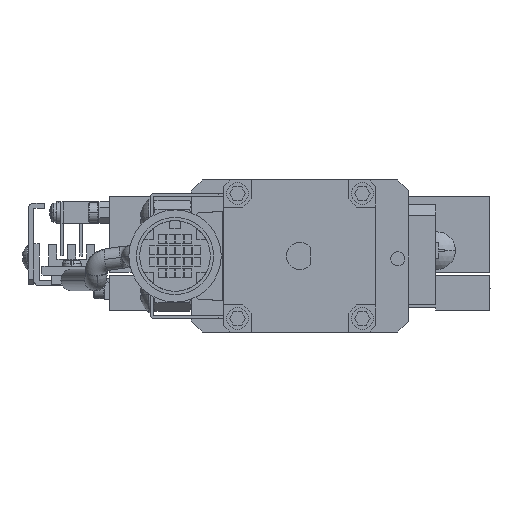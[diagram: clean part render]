
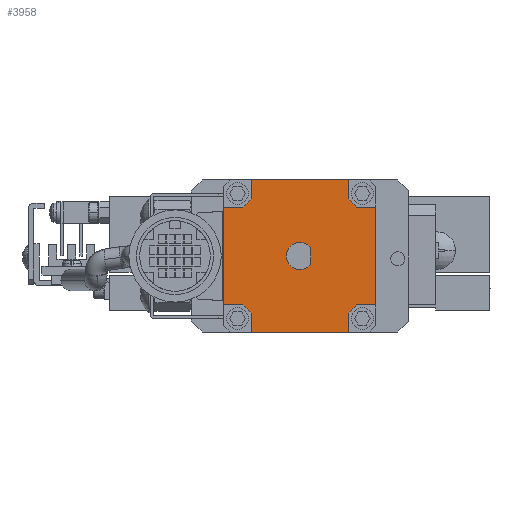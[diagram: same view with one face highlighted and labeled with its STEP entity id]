
A CAD part, left-side view. The second image highlights one B-rep face of the part: STEP entity #3958.
In plain terms, the highlighted planar face has unit normal (-1, 0, 0).
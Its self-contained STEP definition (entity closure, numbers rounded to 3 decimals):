
#362 = VECTOR ( 'NONE', #15434, 1000. ) ;
#437 = AXIS2_PLACEMENT_3D ( 'NONE', #63019, #15230, #41120 ) ;
#969 = LINE ( 'NONE', #35699, #31578 ) ;
#1140 = DIRECTION ( 'NONE',  ( 0., 0., -1. ) ) ;
#1456 = ORIENTED_EDGE ( 'NONE', *, *, #5031, .T. ) ;
#1590 = ORIENTED_EDGE ( 'NONE', *, *, #18285, .F. ) ;
#1621 = CARTESIAN_POINT ( 'NONE',  ( -124.5, 23.164, 33.164 ) ) ;
#1667 = VERTEX_POINT ( 'NONE', #55073 ) ;
#1976 = VERTEX_POINT ( 'NONE', #6130 ) ;
#2765 = CARTESIAN_POINT ( 'NONE',  ( -124.5, 14., 1. ) ) ;
#2819 = VERTEX_POINT ( 'NONE', #4195 ) ;
#3576 = VERTEX_POINT ( 'NONE', #52211 ) ;
#3958 = ADVANCED_FACE ( 'NONE', ( #6708, #18769 ), #30735, .F. ) ;
#4035 = ORIENTED_EDGE ( 'NONE', *, *, #8249, .F. ) ;
#4195 = CARTESIAN_POINT ( 'NONE',  ( -124.5, -14., 1. ) ) ;
#4284 = ORIENTED_EDGE ( 'NONE', *, *, #11650, .F. ) ;
#4507 = EDGE_LOOP ( 'NONE', ( #16329, #17000, #64114, #4284, #48789, #7165, #11136, #60431, #38598, #52429, #29481, #1590, #65864, #30746, #1456, #4035 ) ) ;
#5031 = EDGE_CURVE ( 'NONE', #25926, #2819, #24253, .T. ) ;
#5133 = VECTOR ( 'NONE', #7594, 1000. ) ;
#6130 = CARTESIAN_POINT ( 'NONE',  ( -124.5, -9., -4. ) ) ;
#6556 = DIRECTION ( 'NONE',  ( 0., 0., -1. ) ) ;
#6667 = VERTEX_POINT ( 'NONE', #58008 ) ;
#6708 = FACE_OUTER_BOUND ( 'NONE', #4507, .T. ) ;
#7079 = DIRECTION ( 'NONE',  ( 0., 0., 1. ) ) ;
#7165 = ORIENTED_EDGE ( 'NONE', *, *, #64542, .T. ) ;
#7594 = DIRECTION ( 'NONE',  ( 0., 1., 0. ) ) ;
#8249 = EDGE_CURVE ( 'NONE', #6667, #2819, #8571, .T. ) ;
#8571 = LINE ( 'NONE', #42143, #10190 ) ;
#8937 = VECTOR ( 'NONE', #63524, 1000. ) ;
#9013 = AXIS2_PLACEMENT_3D ( 'NONE', #11724, #51817, #21592 ) ;
#9474 = CARTESIAN_POINT ( 'NONE',  ( -124.5, 9., -0.5 ) ) ;
#9709 = AXIS2_PLACEMENT_3D ( 'NONE', #37267, #20843, #62377 ) ;
#9897 = VERTEX_POINT ( 'NONE', #44981 ) ;
#10190 = VECTOR ( 'NONE', #6556, 1000. ) ;
#10217 = CARTESIAN_POINT ( 'NONE',  ( -124.5, 9., -0.5 ) ) ;
#10638 = VERTEX_POINT ( 'NONE', #52435 ) ;
#10997 = LINE ( 'NONE', #2765, #52111 ) ;
#11136 = ORIENTED_EDGE ( 'NONE', *, *, #52993, .T. ) ;
#11232 = EDGE_CURVE ( 'NONE', #42732, #28280, #32022, .T. ) ;
#11306 = LINE ( 'NONE', #33472, #8937 ) ;
#11650 = EDGE_CURVE ( 'NONE', #49809, #28280, #65931, .T. ) ;
#11724 = CARTESIAN_POINT ( 'NONE',  ( -124.5, 23.164, -13.164 ) ) ;
#11778 = VERTEX_POINT ( 'NONE', #57046 ) ;
#11986 = EDGE_CURVE ( 'NONE', #6667, #38074, #27857, .T. ) ;
#13288 = DIRECTION ( 'NONE',  ( 0., 1., 0. ) ) ;
#13539 = EDGE_CURVE ( 'NONE', #49235, #9897, #39761, .T. ) ;
#15230 = DIRECTION ( 'NONE',  ( 1., 0., 0. ) ) ;
#15434 = DIRECTION ( 'NONE',  ( 0., 1., 0. ) ) ;
#15554 = CARTESIAN_POINT ( 'NONE',  ( -124.5, -9., 20.5 ) ) ;
#16092 = EDGE_CURVE ( 'NONE', #1667, #25926, #25764, .T. ) ;
#16147 = EDGE_CURVE ( 'NONE', #49235, #9897, #20166, .T. ) ;
#16329 = ORIENTED_EDGE ( 'NONE', *, *, #11986, .T. ) ;
#16669 = VECTOR ( 'NONE', #25451, 1000. ) ;
#16829 = VERTEX_POINT ( 'NONE', #47180 ) ;
#17000 = ORIENTED_EDGE ( 'NONE', *, *, #19159, .T. ) ;
#17161 = CIRCLE ( 'NONE', #48697, 19. ) ;
#18285 = EDGE_CURVE ( 'NONE', #1976, #16829, #58455, .T. ) ;
#18769 = FACE_BOUND ( 'NONE', #28505, .T. ) ;
#19159 = EDGE_CURVE ( 'NONE', #38074, #42732, #17161, .T. ) ;
#19306 = ORIENTED_EDGE ( 'NONE', *, *, #16147, .T. ) ;
#19927 = VECTOR ( 'NONE', #7079, 1000. ) ;
#20166 = CIRCLE ( 'NONE', #66317, 2.5 ) ;
#20197 = VERTEX_POINT ( 'NONE', #26090 ) ;
#20279 = CARTESIAN_POINT ( 'NONE',  ( -124.5, 9., 24. ) ) ;
#20843 = DIRECTION ( 'NONE',  ( 1., 0., 0. ) ) ;
#21012 = VECTOR ( 'NONE', #27806, 1000. ) ;
#21464 = CARTESIAN_POINT ( 'NONE',  ( -124.5, -9., 20.5 ) ) ;
#21592 = DIRECTION ( 'NONE',  ( 0., -0.667, 0.745 ) ) ;
#24253 = LINE ( 'NONE', #43175, #21012 ) ;
#24483 = EDGE_CURVE ( 'NONE', #39528, #42019, #53768, .T. ) ;
#24883 = CARTESIAN_POINT ( 'NONE',  ( -124.5, -2., 8.5 ) ) ;
#25110 = DIRECTION ( 'NONE',  ( 0., 0., 1. ) ) ;
#25451 = DIRECTION ( 'NONE',  ( 0., -1., 0. ) ) ;
#25764 = CIRCLE ( 'NONE', #9709, 19. ) ;
#25926 = VERTEX_POINT ( 'NONE', #59849 ) ;
#26090 = CARTESIAN_POINT ( 'NONE',  ( -124.5, 14., 19. ) ) ;
#27394 = CARTESIAN_POINT ( 'NONE',  ( -124.5, 9., 24. ) ) ;
#27806 = DIRECTION ( 'NONE',  ( 0., -1., 0. ) ) ;
#27857 = LINE ( 'NONE', #33309, #60992 ) ;
#28280 = VERTEX_POINT ( 'NONE', #63154 ) ;
#28505 = EDGE_LOOP ( 'NONE', ( #63749, #19306 ) ) ;
#28848 = VECTOR ( 'NONE', #45050, 1000. ) ;
#29481 = ORIENTED_EDGE ( 'NONE', *, *, #58904, .T. ) ;
#30735 = PLANE ( 'NONE',  #437 ) ;
#30746 = ORIENTED_EDGE ( 'NONE', *, *, #16092, .T. ) ;
#31005 = EDGE_CURVE ( 'NONE', #11778, #39528, #10997, .T. ) ;
#31578 = VECTOR ( 'NONE', #25110, 1000. ) ;
#32022 = LINE ( 'NONE', #21464, #19927 ) ;
#32938 = LINE ( 'NONE', #38014, #64455 ) ;
#33309 = CARTESIAN_POINT ( 'NONE',  ( -124.5, -14., 19. ) ) ;
#33472 = CARTESIAN_POINT ( 'NONE',  ( -124.5, -9., -4. ) ) ;
#33498 = CARTESIAN_POINT ( 'NONE',  ( -124.5, -10.5, 19. ) ) ;
#33777 = DIRECTION ( 'NONE',  ( 0., -0.745, -0.667 ) ) ;
#34808 = EDGE_CURVE ( 'NONE', #1976, #1667, #11306, .T. ) ;
#35699 = CARTESIAN_POINT ( 'NONE',  ( -124.5, 14., 1. ) ) ;
#35902 = EDGE_CURVE ( 'NONE', #49809, #3576, #32938, .T. ) ;
#36686 = AXIS2_PLACEMENT_3D ( 'NONE', #1621, #58434, #33777 ) ;
#37267 = CARTESIAN_POINT ( 'NONE',  ( -124.5, -23.164, -13.164 ) ) ;
#38014 = CARTESIAN_POINT ( 'NONE',  ( -124.5, 9., 24. ) ) ;
#38074 = VERTEX_POINT ( 'NONE', #33498 ) ;
#38448 = CARTESIAN_POINT ( 'NONE',  ( -124.5, -23.164, 33.164 ) ) ;
#38598 = ORIENTED_EDGE ( 'NONE', *, *, #31005, .T. ) ;
#39528 = VERTEX_POINT ( 'NONE', #62018 ) ;
#39761 = LINE ( 'NONE', #53956, #40560 ) ;
#40560 = VECTOR ( 'NONE', #43376, 1000. ) ;
#41120 = DIRECTION ( 'NONE',  ( 0., 0., 1. ) ) ;
#41446 = EDGE_CURVE ( 'NONE', #11778, #20197, #969, .T. ) ;
#42019 = VERTEX_POINT ( 'NONE', #10217 ) ;
#42143 = CARTESIAN_POINT ( 'NONE',  ( -124.5, -14., 19. ) ) ;
#42732 = VERTEX_POINT ( 'NONE', #15554 ) ;
#43175 = CARTESIAN_POINT ( 'NONE',  ( -124.5, -10.5, 1. ) ) ;
#43376 = DIRECTION ( 'NONE',  ( 0., 0., 1. ) ) ;
#43660 = DIRECTION ( 'NONE',  ( 0., 0.667, -0.745 ) ) ;
#44981 = CARTESIAN_POINT ( 'NONE',  ( -124.5, -2., 11.5 ) ) ;
#45050 = DIRECTION ( 'NONE',  ( 0., 0., -1. ) ) ;
#47180 = CARTESIAN_POINT ( 'NONE',  ( -124.5, 9., -4. ) ) ;
#47255 = CARTESIAN_POINT ( 'NONE',  ( -124.5, 0., 10. ) ) ;
#48293 = LINE ( 'NONE', #9474, #28848 ) ;
#48697 = AXIS2_PLACEMENT_3D ( 'NONE', #38448, #64242, #43660 ) ;
#48789 = ORIENTED_EDGE ( 'NONE', *, *, #35902, .T. ) ;
#49235 = VERTEX_POINT ( 'NONE', #24883 ) ;
#49809 = VERTEX_POINT ( 'NONE', #27394 ) ;
#51817 = DIRECTION ( 'NONE',  ( 1., 0., 0. ) ) ;
#52111 = VECTOR ( 'NONE', #64345, 1000. ) ;
#52211 = CARTESIAN_POINT ( 'NONE',  ( -124.5, 9., 20.5 ) ) ;
#52429 = ORIENTED_EDGE ( 'NONE', *, *, #24483, .T. ) ;
#52435 = CARTESIAN_POINT ( 'NONE',  ( -124.5, 10.5, 19. ) ) ;
#52993 = EDGE_CURVE ( 'NONE', #10638, #20197, #60013, .T. ) ;
#53768 = CIRCLE ( 'NONE', #9013, 19. ) ;
#53956 = CARTESIAN_POINT ( 'NONE',  ( -124.5, -2., 8.5 ) ) ;
#55073 = CARTESIAN_POINT ( 'NONE',  ( -124.5, -9., -0.5 ) ) ;
#56953 = DIRECTION ( 'NONE',  ( 0., 1., 0. ) ) ;
#57046 = CARTESIAN_POINT ( 'NONE',  ( -124.5, 14., 1. ) ) ;
#57860 = DIRECTION ( 'NONE',  ( 1., 0., 0. ) ) ;
#58008 = CARTESIAN_POINT ( 'NONE',  ( -124.5, -14., 19. ) ) ;
#58392 = CIRCLE ( 'NONE', #36686, 19. ) ;
#58434 = DIRECTION ( 'NONE',  ( 1., 0., 0. ) ) ;
#58455 = LINE ( 'NONE', #61886, #362 ) ;
#58904 = EDGE_CURVE ( 'NONE', #42019, #16829, #48293, .T. ) ;
#59017 = CARTESIAN_POINT ( 'NONE',  ( -124.5, 10.5, 19. ) ) ;
#59849 = CARTESIAN_POINT ( 'NONE',  ( -124.5, -10.5, 1. ) ) ;
#60013 = LINE ( 'NONE', #59017, #5133 ) ;
#60431 = ORIENTED_EDGE ( 'NONE', *, *, #41446, .F. ) ;
#60992 = VECTOR ( 'NONE', #13288, 1000. ) ;
#61886 = CARTESIAN_POINT ( 'NONE',  ( -124.5, -9., -4. ) ) ;
#62018 = CARTESIAN_POINT ( 'NONE',  ( -124.5, 10.5, 1. ) ) ;
#62377 = DIRECTION ( 'NONE',  ( 0., 0.745, 0.667 ) ) ;
#63019 = CARTESIAN_POINT ( 'NONE',  ( -124.5, 29.698, -19.698 ) ) ;
#63154 = CARTESIAN_POINT ( 'NONE',  ( -124.5, -9., 24. ) ) ;
#63524 = DIRECTION ( 'NONE',  ( 0., 0., 1. ) ) ;
#63749 = ORIENTED_EDGE ( 'NONE', *, *, #13539, .F. ) ;
#64114 = ORIENTED_EDGE ( 'NONE', *, *, #11232, .T. ) ;
#64242 = DIRECTION ( 'NONE',  ( 1., 0., 0. ) ) ;
#64345 = DIRECTION ( 'NONE',  ( 0., -1., 0. ) ) ;
#64455 = VECTOR ( 'NONE', #1140, 1000. ) ;
#64542 = EDGE_CURVE ( 'NONE', #3576, #10638, #58392, .T. ) ;
#65864 = ORIENTED_EDGE ( 'NONE', *, *, #34808, .T. ) ;
#65931 = LINE ( 'NONE', #20279, #16669 ) ;
#66317 = AXIS2_PLACEMENT_3D ( 'NONE', #47255, #57860, #56953 ) ;
